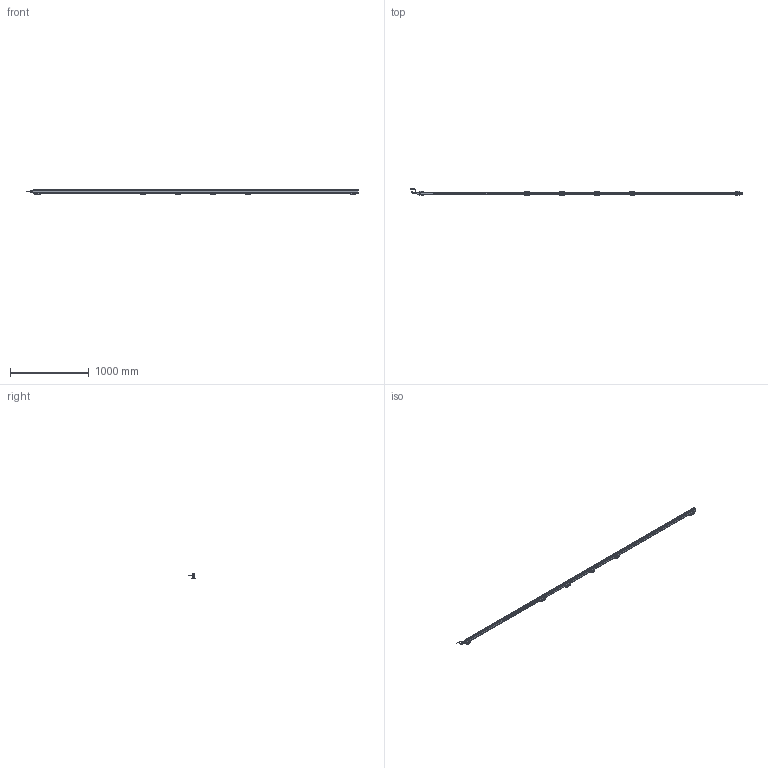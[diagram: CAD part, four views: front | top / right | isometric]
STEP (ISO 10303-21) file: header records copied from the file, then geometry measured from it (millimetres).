
FILE_DESCRIPTION(('Bauteilbeschreibung','HiCAD-Model','HiCAD-STEP-TRANSLATION','Bauteilbeschreibung'),'2;1');
FILE_NAME('PERFORMAXIQEASY_ 4050-4140_3D.STP','2014-03-05T13:33:31+00:00',('Konstrukteur'),('Konstrukteur Firma GmbH'),' HiCAD 2011, Step 1600.0 ','HiCAD 2011','confidential');
FILE_SCHEMA(('AUTOMOTIVE_DESIGN { 1 2 10303 214 0 1 1 1 }'));
Products named in the file (56): PERFORMAXIQEASY_ 4050_4140_3D; A_PERFORMAX IQ EASY 4050_4140; A_PERFORMAX IQ EASY SPEED; A_CAP DE; A_CAP CE_5; LED_2C_3MM; LED02C03MM; A519020315_CONNECTOR APPLIANCE; A_INSERT; A_CONTACTS; A_HOUSING; A_PROFILE; A_POTTING; PIN; PIN0; A532000100_BRACKET BARS_ MOUNT; A_SIDE PIECE; A0SIDE0PIECE; A_BRACKET SMALL; A_SLIDE PIECE; A5320001000BRACKET0BARS00MOUNT; A0SIDE0PIECE0; A0SIDE0PIECE1; A0BRACKET0SMALL; A0SLIDE0PIECE; A5320001000BRACKET0BARS00MOUNT0; A0SIDE0PIECE2; A0SIDE0PIECE3; A0BRACKET0SMALL0; A0SLIDE0PIECE0; A0SIDE0PIECE4; A0SIDE0PIECE5; A0BRACKET0SMALL1; A0SLIDE0PIECE1; A0SIDE0PIECE6; A0SIDE0PIECE7; A0BRACKET0SMALL2; A0SLIDE0PIECE2; A0SIDE0PIECE8; A0SIDE0PIECE9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
Assembly tree (55 placements, depth 5):
  PERFORMAXIQEASY_ 4050_4140_3D
    A_PERFORMAX IQ EASY 4050_4140
      A_PERFORMAX IQ EASY SPEED
        A_CAP DE
        A_CAP CE_5
        LED_2C_3MM
        LED02C03MM
        A519020315_CONNECTOR APPLIANCE
          A_INSERT
          A_CONTACTS
          A_HOUSING
        A_PROFILE
        A_POTTING
        PIN
        PIN0
      A532000100_BRACKET BARS_ MOUNT
        A_SIDE PIECE
        A0SIDE0PIECE
        A_BRACKET SMALL
        A_SLIDE PIECE
      A5320001000BRACKET0BARS00MOUNT
        A0SIDE0PIECE0
        A0SIDE0PIECE1
        A0BRACKET0SMALL
        A0SLIDE0PIECE
      A5320001000BRACKET0BARS00MOUNT0
        A0SIDE0PIECE2
        A0SIDE0PIECE3
        A0BRACKET0SMALL0
        A0SLIDE0PIECE0
      A5320001000BRACKET0BARS00MOUNT0
        A0SIDE0PIECE4
        A0SIDE0PIECE5
        A0BRACKET0SMALL1
        A0SLIDE0PIECE1
      A5320001000BRACKET0BARS00MOUNT0
        A0SIDE0PIECE6
        A0SIDE0PIECE7
        A0BRACKET0SMALL2
        A0SLIDE0PIECE2
      A5320001000BRACKET0BARS00MOUNT0
        A0SIDE0PIECE8
        A0SIDE0PIECE9
        A0BRACKET0SMALL3
        A0SLIDE0PIECE3
      A_CONNECTOR STRAIGHT
        EXTRUDED SOLID_0
        DRAAD GEBOGEN
        REVOLVED SOLID_1
        REVOLVED SOLID_3
      A_CONNECTOR ANGLED
        REVOLVED0SOLID01
        EXTRUDED0SOLID00
        C_EDGE SWEEP_0
        REVOLVED SOLID_2
        REVOLVED0SOLID03
Bounding box: 4217.89 x 84.16 x 63.13 mm (x, y, z)
Volume: 4259837.5 mm3; surface area: 1027450.9 mm2
Topology: 49 solids, 49 shells, 4983 faces, 12800 edges, 7585 vertices
Faces by surface type: cylinder 2137, plane 1879, sphere 332, torus 299, bspline 248, cone 88
Full cylindrical faces by diameter (mm): 0.8 x10, 1 x5, 2.387 x12, 3 x27, 3.1 x1, 4.2 x2, 5 x4, 5.5 x30, 8 x2, 8.2 x1, 8.4 x2, 8.945 x1, 9 x2, 10.2 x1, 10.5 x3, 11 x1, 12 x3, 12.8 x1, 13.8 x4, 14.5 x3
Entity records: 231105 total; most frequent: CARTESIAN_POINT 54548, DIRECTION 24777, ORIENTED_EDGE 24320, EDGE_CURVE 12160, COLOUR_RGB 11541, PRESENTATION_STYLE_ASSIGNMENT 11541, OVER_RIDING_STYLED_ITEM 11497, CURVE_STYLE 11492
